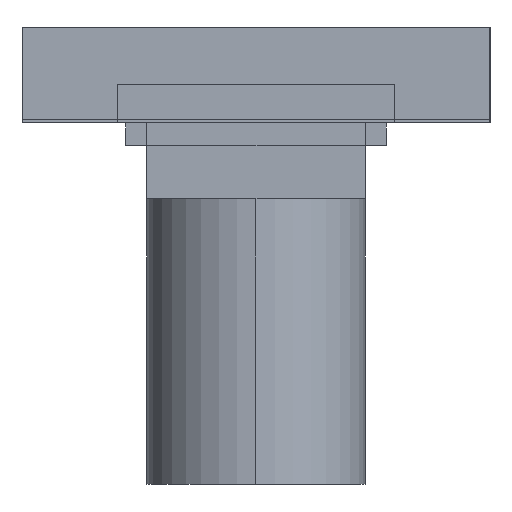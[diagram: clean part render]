
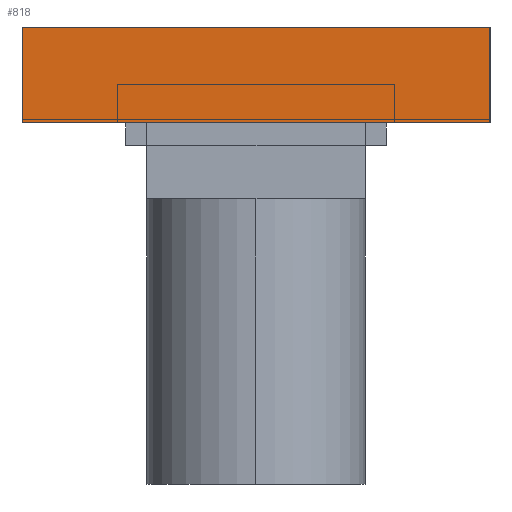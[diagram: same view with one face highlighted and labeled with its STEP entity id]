
A CAD part, left-side view. The second image highlights one B-rep face of the part: STEP entity #818.
In plain terms, the highlighted planar face has unit normal (-1, 0, 0).
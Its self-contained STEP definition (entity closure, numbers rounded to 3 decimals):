
#78=FACE_OUTER_BOUND('',#131,.T.);
#131=EDGE_LOOP('',(#688,#689,#690,#691));
#223=LINE('',#1311,#324);
#225=LINE('',#1315,#326);
#226=LINE('',#1317,#327);
#227=LINE('',#1318,#328);
#324=VECTOR('',#1084,304.8);
#326=VECTOR('',#1088,304.8);
#327=VECTOR('',#1089,304.8);
#328=VECTOR('',#1090,304.8);
#401=VERTEX_POINT('',#1308);
#402=VERTEX_POINT('',#1310);
#403=VERTEX_POINT('',#1314);
#404=VERTEX_POINT('',#1316);
#499=EDGE_CURVE('',#402,#401,#223,.T.);
#501=EDGE_CURVE('',#403,#401,#225,.T.);
#502=EDGE_CURVE('',#404,#403,#226,.T.);
#503=EDGE_CURVE('',#402,#404,#227,.T.);
#688=ORIENTED_EDGE('',*,*,#501,.F.);
#689=ORIENTED_EDGE('',*,*,#502,.F.);
#690=ORIENTED_EDGE('',*,*,#503,.F.);
#691=ORIENTED_EDGE('',*,*,#499,.T.);
#767=PLANE('',#900);
#818=ADVANCED_FACE('',(#78),#767,.T.);
#900=AXIS2_PLACEMENT_3D('',#1313,#1086,#1087);
#1084=DIRECTION('',(0.,0.,1.));
#1086=DIRECTION('center_axis',(-1.,0.,0.));
#1087=DIRECTION('ref_axis',(0.,0.,-1.));
#1088=DIRECTION('',(0.,-1.,0.));
#1089=DIRECTION('',(0.,0.,1.));
#1090=DIRECTION('',(0.,1.,0.));
#1308=CARTESIAN_POINT('',(-500.,-123.,30.));
#1310=CARTESIAN_POINT('',(-500.,-123.,-20.));
#1311=CARTESIAN_POINT('',(-500.,-123.,-20.));
#1313=CARTESIAN_POINT('Origin',(-500.,123.,30.));
#1314=CARTESIAN_POINT('',(-500.,123.,30.));
#1315=CARTESIAN_POINT('',(-500.,123.,30.));
#1316=CARTESIAN_POINT('',(-500.,123.,-20.));
#1317=CARTESIAN_POINT('',(-500.,123.,-20.));
#1318=CARTESIAN_POINT('',(-500.,-123.,-20.));
